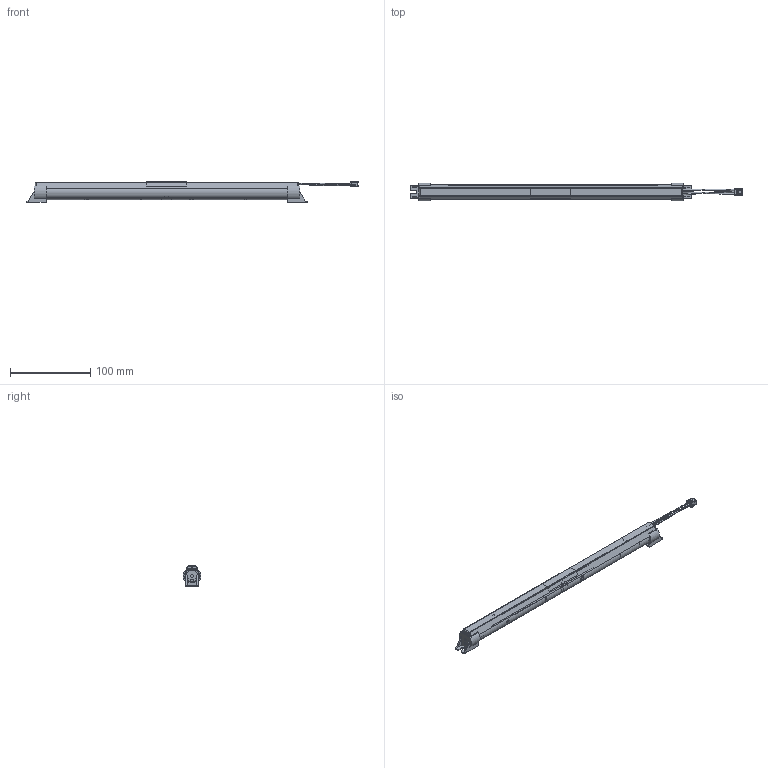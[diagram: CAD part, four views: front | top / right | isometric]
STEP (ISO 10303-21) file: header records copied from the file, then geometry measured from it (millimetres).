
FILE_DESCRIPTION((''),'2;1');
FILE_NAME('15012928Z_DMEC_28002325_PO4-5A','2018-11-09T11:33:00',('juergen.hrach'),(''),'CREO PARAMETRIC BY PTC INC, 2017380','CREO PARAMETRIC BY PTC INC, 2017380','');
FILE_SCHEMA(('AUTOMOTIVE_DESIGN { 1 0 10303 214 1 1 1 1 }'));
Length unit declared in the file: millimetre
Products named in the file (1): 15012928Z_DMEC_28002325_PO4-5A
Bounding box: 413.48 x 21.93 x 26.15 mm (x, y, z)
Volume: 92501.4 mm3; surface area: 91707.4 mm2
Topology: 7 solids, 12 shells, 814 faces, 2254 edges, 1400 vertices
Faces by surface type: plane 514, cylinder 202, torus 50, bspline 26, cone 14, sphere 8
Entity records: 30903 total; most frequent: CARTESIAN_POINT 6757, ORIENTED_EDGE 4484, DIRECTION 4308, EDGE_CURVE 2246, VECTOR 1482, LINE 1482, AXIS2_PLACEMENT_3D 1413, VERTEX_POINT 1400
